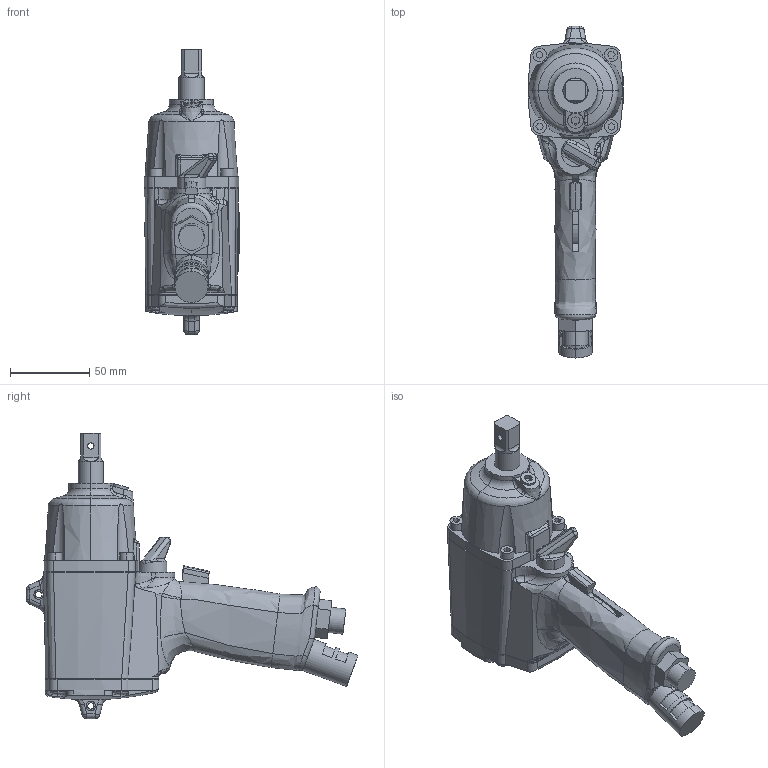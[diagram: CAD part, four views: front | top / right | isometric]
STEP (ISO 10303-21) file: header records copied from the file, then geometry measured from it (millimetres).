
FILE_DESCRIPTION (( 'STEP AP203' ), '1' );
FILE_NAME ('UX-900.STEP', '2006-09-04T00:58:48', ( '' ), ( '' ), 'SwSTEP 2.0', 'SolidWorks 2003240', '' );
FILE_SCHEMA (( 'CONFIG_CONTROL_DESIGN' ));
Length unit declared in the file: millimetre
Products named in the file (7): 1943193_UX-900_蹬怮椔; 1944393_UX-900_蹬怮椔; 1940253_UX-900_蹬怮椔; UX-900; 1871071_UX-900_蹬怮椔; 1940123_UX-900_蹬怮椔; 0232124_UX-900_蹬怮椔
Assembly tree (6 placements, depth 2):
  UX-900
    1940123_UX-900_蹬怮椔
    0232124_UX-900_蹬怮椔
    1943193_UX-900_蹬怮椔
    1944393_UX-900_蹬怮椔
    1940253_UX-900_蹬怮椔
    1871071_UX-900_蹬怮椔
Bounding box: 60.24 x 209.97 x 180.5 mm (x, y, z)
Volume: 561874 mm3; surface area: 74667.2 mm2
Topology: 6 solids, 6 shells, 819 faces, 2143 edges, 1371 vertices
Faces by surface type: plane 344, bspline 229, cylinder 205, torus 18, sphere 15, cone 8
Entity records: 86932 total; most frequent: CARTESIAN_POINT 68397, ORIENTED_EDGE 4252, DIRECTION 2795, EDGE_CURVE 2126, VERTEX_POINT 1371, AXIS2_PLACEMENT_3D 997, B_SPLINE_CURVE_WITH_KNOTS 884, EDGE_LOOP 881
